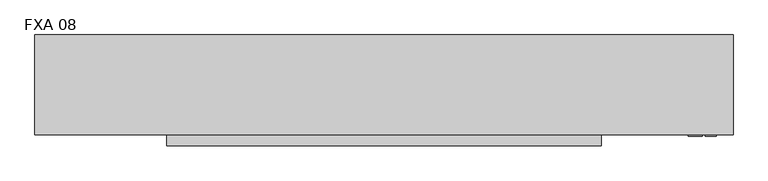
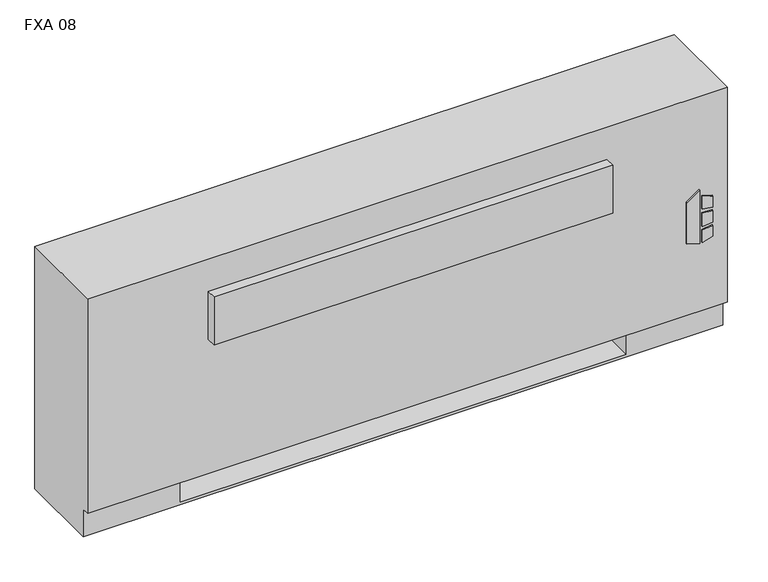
"""IFC4 building model written with IfcOpenShell, lengths in millimetres: proxy geometry, Vertical_Fan_Coil_Unit_-_FXA_-_IEC_-_4-Pipe_FS-FR_RH_2022 : FXA 08."""

from ifc_helpers import new_model, si_unit, point, frame, frame_2d, origin, place, context, project, spatial, polyline, circle_curve, trimmed, segment, composite_curve, outline, extrude, source, transform, mapped, element, save
from ifc_brep_helpers import plane_surface, revolved_surface, advanced_brep


def fxa_08_503152b9(model_context):
    return source(origin(), model_context, "Body", "SolidModel", [
        extrude(outline(polyline([(263.9480703, 849.3868862), (254.0, 881.5602728), (396.1709244, 881.5602728), (373.1489183, 849.3868862), (263.9480703, 849.3868862)])), frame((0.0, 12.7, 0.0), z_axis=(0.0, 1.0, 0.0), x_axis=(0.0, 0.0, 1.0)), (0.0, 0.0, 1.0), 3.175),
        extrude(outline(polyline([(342.9473557, 888.3186058), (339.7449632, 914.4), (368.9738042, 914.4), (377.0382193, 888.3186058), (342.9473557, 888.3186058)])), frame((0.0, 12.7, 0.0), z_axis=(0.0, 1.0, 0.0), x_axis=(0.0, 0.0, 1.0)), (0.0, 0.0, 1.0), 3.175),
        extrude(outline(polyline([(291.0838288, 914.4), (287.4183279, 888.3186058), (254.0, 888.3186058), (262.6342372, 914.4), (291.0838288, 914.4)])), frame((0.0, 12.7, 0.0), z_axis=(0.0, 1.0, 0.0), x_axis=(0.0, 0.0, 1.0)), (0.0, 0.0, 1.0), 3.175),
        extrude(outline(polyline([(330.3989903, 914.4), (332.6808166, 888.3186058), (296.7432681, 888.3186058), (299.4845331, 914.4), (330.3989903, 914.4)])), frame((0.0, 12.7, 0.0), z_axis=(0.0, 1.0, 0.0), x_axis=(0.0, 0.0, 1.0)), (0.0, 0.0, 1.0), 3.175),
        extrude(outline(polyline([(-527.05, 81.534), (-527.05, 223.266), (-406.4, 223.266), (-406.4, 81.534), (-527.05, 81.534)])), frame((0.0, 0.0, 327.025), z_axis=(0.0, 0.0, 1.0), x_axis=(1.0, 0.0, 0.0)), (0.0, 0.0, 1.0), 260.35),
        extrude(outline(composite_curve([segment(trimmed(circle_curve(frame_2d((774.7, 130.175)), 9.525), [point((765.175, 130.175))], [point((784.225, 130.175))], False, "CARTESIAN"), True, "CONTINUOUS"), segment(trimmed(circle_curve(frame_2d((774.7, 130.175)), 9.525), [point((784.225, 130.175))], [point((765.175, 130.175))], False, "CARTESIAN"), True, "CONTINUOUS")], self_intersect=False)), frame((0.0, 0.0, 101.6), z_axis=(0.0, 0.0, 1.0), x_axis=(1.0, 0.0, 0.0)), (0.0, 0.0, 1.0), 25.4),
        extrude(outline(polyline([(876.3, 196.85), (876.3, 63.5), (711.2, 63.5), (711.2, 196.85), (876.3, 196.85)])), frame((0.0, 0.0, 127.0), z_axis=(0.0, 0.0, 1.0), x_axis=(1.0, 0.0, 0.0)), (0.0, 0.0, 1.0), 50.8),
        extrude(outline(polyline([(650.875, -9.525), (-346.075, -9.525), (-346.075, 15.875), (650.875, 15.875), (650.875, -9.525)])), frame((0.0, 0.0, 428.625), z_axis=(0.0, 0.0, 1.0), x_axis=(1.0, 0.0, 0.0)), (0.0, 0.0, 1.0), 127.0),
        extrude(outline(composite_curve([segment(trimmed(circle_curve(frame_2d((109.0168, 457.2)), 7.9375), [point((109.0168, 465.1375))], [point((109.0168, 449.2625))], False, "CARTESIAN"), True, "CONTINUOUS"), segment(trimmed(circle_curve(frame_2d((109.0168, 457.2)), 7.9375), [point((109.0168, 449.2625))], [point((109.0168, 465.1375))], False, "CARTESIAN"), True, "CONTINUOUS")], self_intersect=False)), frame((711.2, 0.0, 0.0), z_axis=(1.0, 0.0, 0.0), x_axis=(0.0, 1.0, 0.0)), (0.0, 0.0, 1.0), 50.8),
        extrude(outline(composite_curve([segment(trimmed(circle_curve(frame_2d((172.085, 460.0194)), 7.9375), [point((172.085, 467.9569))], [point((172.085, 452.0819))], False, "CARTESIAN"), True, "CONTINUOUS"), segment(trimmed(circle_curve(frame_2d((172.085, 460.0194)), 7.9375), [point((172.085, 452.0819))], [point((172.085, 467.9569))], False, "CARTESIAN"), True, "CONTINUOUS")], self_intersect=False)), frame((711.2, 0.0, 0.0), z_axis=(1.0, 0.0, 0.0), x_axis=(0.0, 1.0, 0.0)), (0.0, 0.0, 1.0), 50.8),
        extrude(outline(composite_curve([segment(trimmed(circle_curve(frame_2d((130.175, 554.99)), 7.9502), [point((130.175, 562.9402))], [point((130.175, 547.0398))], False, "CARTESIAN"), True, "CONTINUOUS"), segment(trimmed(circle_curve(frame_2d((130.175, 554.99)), 7.9502), [point((130.175, 547.0398))], [point((130.175, 562.9402))], False, "CARTESIAN"), True, "CONTINUOUS")], self_intersect=False)), frame((711.2, 0.0, 0.0), z_axis=(1.0, 0.0, 0.0), x_axis=(0.0, 1.0, 0.0)), (0.0, 0.0, 1.0), 50.8),
        extrude(outline(composite_curve([segment(trimmed(circle_curve(frame_2d((53.975, 416.56)), 7.9502), [point((53.975, 424.5102))], [point((53.975, 408.6098))], False, "CARTESIAN"), True, "CONTINUOUS"), segment(trimmed(circle_curve(frame_2d((53.975, 416.56)), 7.9502), [point((53.975, 408.6098))], [point((53.975, 424.5102))], False, "CARTESIAN"), True, "CONTINUOUS")], self_intersect=False)), frame((711.2, 0.0, 0.0), z_axis=(1.0, 0.0, 0.0), x_axis=(0.0, 1.0, 0.0)), (0.0, 0.0, 1.0), 50.8),
        advanced_brep(
        [(952.5, 244.475, 641.35), (-647.7, 244.475, 641.35), (-647.7, 15.875, 641.35), (952.5, 15.875, 641.35), (-647.7, 244.475, 0.0), (952.5, 244.475, 0.0), (952.5, 34.925, 0.0), (-647.7, 34.925, 0.0), (711.2, 244.475, 73.025), (939.8, 244.475, 73.025), (939.8, 244.475, 628.65), (711.2, 244.475, 628.65), (711.2, 244.475, 414.8650565), (739.775, 244.475, 414.8650565), (739.775, 244.475, 385.2349435), (711.2, 244.475, 385.2349435), (711.2, 244.475, 287.3375), (739.775, 244.475, 287.3375), (739.775, 244.475, 258.7625), (711.2, 244.475, 258.7625), (711.2, 244.475, 141.2875), (739.775, 244.475, 141.2875), (739.775, 244.475, 112.7125), (711.2, 244.475, 112.7125), (-406.4, 244.475, 628.65), (-635.0, 244.475, 628.65), (-635.0, 244.475, 73.025), (-406.4, 244.475, 73.025), (-406.4, 244.475, 112.7125), (-434.975, 244.475, 112.7125), (-434.975, 244.475, 141.2875), (-406.4, 244.475, 141.2875), (-406.4, 244.475, 258.7625), (-434.975, 244.475, 258.7625), (-434.975, 244.475, 287.3375), (-406.4, 244.475, 287.3375), (-406.4, 244.475, 385.2349435), (-434.975, 244.475, 385.2349435), (-434.975, 244.475, 414.8650565), (-406.4, 244.475, 414.8650565), (729.4626, 244.475, 127.0), (718.3374, 244.475, 127.0), (729.4626, 244.475, 400.05), (718.3374, 244.475, 400.05), (729.4626, 244.475, 273.05), (718.3374, 244.475, 273.05), (-413.5374, 244.475, 127.0), (-424.6626, 244.475, 127.0), (-413.5374, 244.475, 273.05), (-424.6626, 244.475, 273.05), (-413.5374, 244.475, 400.05), (-424.6626, 244.475, 400.05), (-647.7, 34.925, 73.025), (-647.7, 15.875, 73.025), (952.5, 15.875, 73.025), (952.5, 34.925, 73.025), (-406.4, 34.925, 73.025), (-406.4, 219.075, 73.025), (711.2, 219.075, 73.025), (711.2, 34.925, 73.025), (711.2, 34.925, 6.35), (-406.4, 34.925, 6.35), (711.2, 41.275, 628.65), (939.8, 41.275, 628.65), (939.8, 41.275, 73.025), (711.2, 41.275, 73.025), (-406.4, 41.275, 628.65), (-406.4, 41.275, 73.025), (-635.0, 41.275, 73.025), (-635.0, 41.275, 628.65), (711.2, 219.075, 73.025), (711.2, 238.125, 112.7125), (711.2, 238.125, 141.2875), (711.2, 238.125, 258.7625), (711.2, 238.125, 287.3375), (711.2, 238.125, 385.2349435), (711.2, 238.125, 414.8650565), (-406.4, 219.075, 73.025), (-406.4, 238.125, 414.8650565), (-406.4, 238.125, 385.2349435), (-406.4, 238.125, 287.3375), (-406.4, 238.125, 258.7625), (-406.4, 238.125, 141.2875), (-406.4, 238.125, 112.7125), (-406.4, 219.075, 6.35), (711.2, 219.075, 6.35), (739.775, 238.125, 112.7125), (739.775, 238.125, 141.2875), (718.3374, 238.125, 127.0), (729.4626, 238.125, 127.0), (739.775, 238.125, 258.7625), (739.775, 238.125, 287.3375), (718.3374, 238.125, 273.05), (729.4626, 238.125, 273.05), (739.775, 238.125, 385.2349435), (739.775, 238.125, 414.8650565), (718.3374, 238.125, 400.05), (729.4626, 238.125, 400.05), (-434.975, 238.125, 141.2875), (-434.975, 238.125, 112.7125), (-424.6626, 238.125, 127.0), (-413.5374, 238.125, 127.0), (-434.975, 238.125, 287.3375), (-434.975, 238.125, 258.7625), (-424.6626, 238.125, 273.05), (-413.5374, 238.125, 273.05), (-434.975, 238.125, 414.8650565), (-434.975, 238.125, 385.2349435), (-424.6626, 238.125, 400.05), (-413.5374, 238.125, 400.05)],
        [
            (0, 1),
            (1, 2),
            (2, 3),
            (3, 0),
            (4, 5),
            (5, 6),
            (6, 7),
            (7, 4),
            (0, 5),
            (4, 1),
            (8, 9),
            (9, 10),
            (10, 11),
            (11, 12),
            (12, 13),
            (13, 14),
            (14, 15),
            (15, 16),
            (16, 17),
            (17, 18),
            (18, 19),
            (19, 20),
            (20, 21),
            (21, 22),
            (22, 23),
            (23, 8),
            (24, 25),
            (25, 26),
            (26, 27),
            (27, 28),
            (28, 29),
            (29, 30),
            (30, 31),
            (31, 32),
            (32, 33),
            (33, 34),
            (34, 35),
            (35, 36),
            (36, 37),
            (37, 38),
            (38, 39),
            (39, 24),
            (40, 41, circle_curve(frame((723.9, 244.475, 127.0), z_axis=(0.0, -1.0, 0.0), x_axis=(-1.0, 0.0, 0.0)), 5.5626)),
            (41, 40, circle_curve(frame((723.9, 244.475, 127.0), z_axis=(0.0, -1.0, 0.0), x_axis=(-1.0, 0.0, 0.0)), 5.5626)),
            (42, 43, circle_curve(frame((723.9, 244.475, 400.05), z_axis=(0.0, -1.0, 0.0), x_axis=(-1.0, 0.0, 0.0)), 5.5626)),
            (43, 42, circle_curve(frame((723.9, 244.475, 400.05), z_axis=(0.0, -1.0, 0.0), x_axis=(-1.0, 0.0, 0.0)), 5.5626)),
            (44, 45, circle_curve(frame((723.9, 244.475, 273.05), z_axis=(0.0, -1.0, 0.0), x_axis=(-1.0, 0.0, 0.0)), 5.5626)),
            (45, 44, circle_curve(frame((723.9, 244.475, 273.05), z_axis=(0.0, -1.0, 0.0), x_axis=(-1.0, 0.0, 0.0)), 5.5626)),
            (46, 47, circle_curve(frame((-419.1, 244.475, 127.0), z_axis=(0.0, -1.0, 0.0), x_axis=(-1.0, 0.0, 0.0)), 5.5626)),
            (47, 46, circle_curve(frame((-419.1, 244.475, 127.0), z_axis=(0.0, -1.0, 0.0), x_axis=(-1.0, 0.0, 0.0)), 5.5626)),
            (48, 49, circle_curve(frame((-419.1, 244.475, 273.05), z_axis=(0.0, -1.0, 0.0), x_axis=(-1.0, 0.0, 0.0)), 5.5626)),
            (49, 48, circle_curve(frame((-419.1, 244.475, 273.05), z_axis=(0.0, -1.0, 0.0), x_axis=(-1.0, 0.0, 0.0)), 5.5626)),
            (50, 51, circle_curve(frame((-419.1, 244.475, 400.05), z_axis=(0.0, -1.0, 0.0), x_axis=(-1.0, 0.0, 0.0)), 5.5626)),
            (51, 50, circle_curve(frame((-419.1, 244.475, 400.05), z_axis=(0.0, -1.0, 0.0), x_axis=(-1.0, 0.0, 0.0)), 5.5626)),
            (7, 52),
            (52, 53),
            (53, 2),
            (53, 54),
            (54, 3),
            (54, 55),
            (55, 6),
            (52, 56),
            (56, 57),
            (57, 58),
            (58, 59),
            (59, 55),
            (59, 60),
            (60, 61),
            (61, 56),
            (62, 63),
            (63, 64),
            (64, 65),
            (65, 62),
            (66, 67),
            (67, 68),
            (68, 69),
            (69, 66),
            (65, 70),
            (70, 8),
            (23, 71),
            (71, 72),
            (72, 20),
            (19, 73),
            (73, 74),
            (74, 16),
            (15, 75),
            (75, 76),
            (76, 12),
            (11, 62),
            (64, 9),
            (63, 10),
            (69, 25),
            (24, 66),
            (68, 26),
            (67, 77),
            (77, 27),
            (39, 78),
            (78, 79),
            (79, 36),
            (35, 80),
            (80, 81),
            (81, 32),
            (31, 82),
            (82, 83),
            (83, 28),
            (57, 84),
            (84, 85),
            (85, 58),
            (85, 60),
            (84, 61),
            (71, 86),
            (86, 87),
            (87, 72),
            (88, 89, circle_curve(frame((723.9, 238.125, 127.0), z_axis=(0.0, 1.0, 0.0), x_axis=(-1.0, 0.0, 0.0)), 5.5626)),
            (89, 88, circle_curve(frame((723.9, 238.125, 127.0), z_axis=(0.0, 1.0, 0.0), x_axis=(-1.0, 0.0, 0.0)), 5.5626)),
            (73, 90),
            (90, 91),
            (91, 74),
            (92, 93, circle_curve(frame((723.9, 238.125, 273.05), z_axis=(0.0, 1.0, 0.0), x_axis=(-1.0, 0.0, 0.0)), 5.5626)),
            (93, 92, circle_curve(frame((723.9, 238.125, 273.05), z_axis=(0.0, 1.0, 0.0), x_axis=(-1.0, 0.0, 0.0)), 5.5626)),
            (75, 94),
            (94, 95),
            (95, 76),
            (96, 97, circle_curve(frame((723.9, 238.125, 400.05), z_axis=(0.0, 1.0, 0.0), x_axis=(-1.0, 0.0, 0.0)), 5.5626)),
            (97, 96, circle_curve(frame((723.9, 238.125, 400.05), z_axis=(0.0, 1.0, 0.0), x_axis=(-1.0, 0.0, 0.0)), 5.5626)),
            (98, 99),
            (99, 83),
            (82, 98),
            (100, 101, circle_curve(frame((-419.1, 238.125, 127.0), z_axis=(0.0, 1.0, 0.0), x_axis=(-1.0, 0.0, 0.0)), 5.5626)),
            (101, 100, circle_curve(frame((-419.1, 238.125, 127.0), z_axis=(0.0, 1.0, 0.0), x_axis=(-1.0, 0.0, 0.0)), 5.5626)),
            (102, 103),
            (103, 81),
            (80, 102),
            (104, 105, circle_curve(frame((-419.1, 238.125, 273.05), z_axis=(0.0, 1.0, 0.0), x_axis=(-1.0, 0.0, 0.0)), 5.5626)),
            (105, 104, circle_curve(frame((-419.1, 238.125, 273.05), z_axis=(0.0, 1.0, 0.0), x_axis=(-1.0, 0.0, 0.0)), 5.5626)),
            (106, 107),
            (107, 79),
            (78, 106),
            (108, 109, circle_curve(frame((-419.1, 238.125, 400.05), z_axis=(0.0, 1.0, 0.0), x_axis=(-1.0, 0.0, 0.0)), 5.5626)),
            (109, 108, circle_curve(frame((-419.1, 238.125, 400.05), z_axis=(0.0, 1.0, 0.0), x_axis=(-1.0, 0.0, 0.0)), 5.5626)),
            (87, 21),
            (86, 22),
            (91, 17),
            (90, 18),
            (95, 13),
            (94, 14),
            (30, 98),
            (99, 29),
            (34, 102),
            (103, 33),
            (38, 106),
            (107, 37),
            (88, 41),
            (40, 89),
            (96, 43),
            (42, 97),
            (92, 45),
            (44, 93),
            (100, 47),
            (46, 101),
            (104, 49),
            (48, 105),
            (108, 51),
            (50, 109),
        ],
        [
            plane_surface(frame((-647.7, 244.475, 641.35), z_axis=(0.0, 0.0, 1.0), x_axis=(-1.0, 0.0, 0.0))),
            plane_surface(frame((-647.7, 244.475, 0.0), z_axis=(0.0, 0.0, -1.0), x_axis=(1.0, 0.0, 0.0))),
            plane_surface(frame((952.5, 244.475, 641.35), z_axis=(0.0, 1.0, 0.0), x_axis=(0.0, 0.0, -1.0))),
            plane_surface(frame((-647.7, 244.475, 641.35), z_axis=(-1.0, 0.0, 0.0), x_axis=(0.0, 0.0, -1.0))),
            plane_surface(frame((-647.7, 15.875, 641.35), z_axis=(0.0, -1.0, 0.0), x_axis=(0.0, 0.0, -1.0))),
            plane_surface(frame((952.5, 15.875, 641.35), z_axis=(1.0, 0.0, 0.0), x_axis=(0.0, 0.0, -1.0))),
            plane_surface(frame((-647.7, 15.875, 73.025), z_axis=(0.0, 0.0, -1.0), x_axis=(1.0, 0.0, 0.0))),
            plane_surface(frame((-647.7, 34.925, 73.025), z_axis=(0.0, -1.0, 0.0), x_axis=(1.0, 0.0, 0.0))),
            plane_surface(frame((711.2, 41.275, 628.65), z_axis=(0.0, 1.0, 0.0), x_axis=(0.0, 0.0, -1.0))),
            plane_surface(frame((711.2, 41.275, 628.65), z_axis=(1.0, 0.0, 0.0), x_axis=(0.0, 1.0, 0.0))),
            plane_surface(frame((711.2, 41.275, 73.025), z_axis=(0.0, 0.0, 1.0), x_axis=(0.0, 1.0, 0.0))),
            plane_surface(frame((939.8, 41.275, 73.025), z_axis=(-1.0, 0.0, 0.0), x_axis=(0.0, 1.0, 0.0))),
            plane_surface(frame((939.8, 41.275, 628.65), z_axis=(0.0, 0.0, -1.0), x_axis=(0.0, 1.0, 0.0))),
            plane_surface(frame((-406.4, 41.275, 628.65), z_axis=(0.0, 0.0, -1.0), x_axis=(0.0, 1.0, 0.0))),
            plane_surface(frame((-635.0, 41.275, 628.65), z_axis=(1.0, 0.0, 0.0), x_axis=(0.0, 1.0, 0.0))),
            plane_surface(frame((-635.0, 41.275, 73.025), z_axis=(0.0, 0.0, 1.0), x_axis=(0.0, 1.0, 0.0))),
            plane_surface(frame((-406.4, 41.275, 73.025), z_axis=(-1.0, 0.0, 0.0), x_axis=(0.0, 1.0, 0.0))),
            plane_surface(frame((711.2, 219.075, 73.025), z_axis=(0.0, -1.0, 0.0), x_axis=(0.0, 0.0, -1.0))),
            plane_surface(frame((711.2, 219.075, 73.025), z_axis=(-1.0, 0.0, 0.0), x_axis=(0.0, -1.0, 0.0))),
            plane_surface(frame((711.2, 219.075, 6.35), z_axis=(0.0, 0.0, 1.0), x_axis=(0.0, -1.0, 0.0))),
            plane_surface(frame((-406.4, 219.075, 6.35), z_axis=(1.0, 0.0, 0.0), x_axis=(0.0, -1.0, 0.0))),
            plane_surface(frame((739.775, 238.125, 141.2875), z_axis=(0.0, -1.0, 0.0), x_axis=(-1.0, 0.0, 0.0))),
            plane_surface(frame((711.2, 244.475, 141.2875), z_axis=(0.0, 0.0, 1.0), x_axis=(0.0, -1.0, 0.0))),
            plane_surface(frame((739.775, 244.475, 141.2875), z_axis=(1.0, 0.0, 0.0), x_axis=(0.0, -1.0, 0.0))),
            plane_surface(frame((739.775, 244.475, 112.7125), z_axis=(0.0, 0.0, -1.0), x_axis=(0.0, -1.0, 0.0))),
            plane_surface(frame((711.2, 244.475, 287.3375), z_axis=(0.0, 0.0, 1.0), x_axis=(0.0, -1.0, 0.0))),
            plane_surface(frame((739.775, 244.475, 287.3375), z_axis=(1.0, 0.0, 0.0), x_axis=(0.0, -1.0, 0.0))),
            plane_surface(frame((739.775, 244.475, 258.7625), z_axis=(0.0, 0.0, -1.0), x_axis=(0.0, -1.0, 0.0))),
            plane_surface(frame((711.2, 244.475, 414.8650565), z_axis=(0.0, 0.0, 1.0), x_axis=(0.0, -1.0, 0.0))),
            plane_surface(frame((739.775, 244.475, 414.8650565), z_axis=(1.0, 0.0, 0.0), x_axis=(0.0, -1.0, 0.0))),
            plane_surface(frame((739.775, 244.475, 385.2349435), z_axis=(0.0, 0.0, -1.0), x_axis=(0.0, -1.0, 0.0))),
            plane_surface(frame((-434.975, 244.475, 141.2875), z_axis=(0.0, 0.0, 1.0), x_axis=(0.0, -1.0, 0.0))),
            plane_surface(frame((-406.4, 244.475, 112.7125), z_axis=(0.0, 0.0, -1.0), x_axis=(0.0, -1.0, 0.0))),
            plane_surface(frame((-434.975, 244.475, 112.7125), z_axis=(-1.0, 0.0, 0.0), x_axis=(0.0, -1.0, 0.0))),
            plane_surface(frame((-434.975, 244.475, 287.3375), z_axis=(0.0, 0.0, 1.0), x_axis=(0.0, -1.0, 0.0))),
            plane_surface(frame((-406.4, 244.475, 258.7625), z_axis=(0.0, 0.0, -1.0), x_axis=(0.0, -1.0, 0.0))),
            plane_surface(frame((-434.975, 244.475, 258.7625), z_axis=(-1.0, 0.0, 0.0), x_axis=(0.0, -1.0, 0.0))),
            plane_surface(frame((-434.975, 244.475, 414.8650565), z_axis=(0.0, 0.0, 1.0), x_axis=(0.0, -1.0, 0.0))),
            plane_surface(frame((-406.4, 244.475, 385.2349435), z_axis=(0.0, 0.0, -1.0), x_axis=(0.0, -1.0, 0.0))),
            plane_surface(frame((-434.975, 244.475, 385.2349435), z_axis=(-1.0, 0.0, 0.0), x_axis=(0.0, -1.0, 0.0))),
            revolved_surface(polyline([(718.3374, 238.125, 127.0), (718.3374, 244.475, 127.0)]), (723.9, 244.475, 127.0), (0.0, -1.0, 0.0)),
            revolved_surface(polyline([(718.3374, 238.125, 400.05), (718.3374, 244.475, 400.05)]), (723.9, 244.475, 400.05), (0.0, -1.0, 0.0)),
            revolved_surface(polyline([(718.3374, 238.125, 273.05), (718.3374, 244.475, 273.05)]), (723.9, 244.475, 273.05), (0.0, -1.0, 0.0)),
            revolved_surface(polyline([(-424.6626, 238.125, 127.0), (-424.6626, 244.475, 127.0)]), (-419.1, 244.475, 127.0), (0.0, -1.0, 0.0)),
            revolved_surface(polyline([(-424.6626, 238.125, 273.05), (-424.6626, 244.475, 273.05)]), (-419.1, 244.475, 273.05), (0.0, -1.0, 0.0)),
            revolved_surface(polyline([(-424.6626, 238.125, 400.05), (-424.6626, 244.475, 400.05)]), (-419.1, 244.475, 400.05), (0.0, -1.0, 0.0)),
        ],
        [
            (0, [[1, 2, 3, 4]]),
            (1, [[5, 6, 7, 8]]),
            (2, [[-1, 9, -5, 10], [11, 12, 13, 14, 15, 16, 17, 18, 19, 20, 21, 22, 23, 24, 25, 26], [27, 28, 29, 30, 31, 32, 33, 34, 35, 36, 37, 38, 39, 40, 41, 42], [43, 44], [45, 46], [47, 48], [49, 50], [51, 52], [53, 54]]),
            (3, [[-2, -10, -8, 55, 56, 57]]),
            (4, [[-3, -57, 58, 59]]),
            (5, [[-4, -59, 60, 61, -6, -9]]),
            (6, [[-56, 62, 63, 64, 65, 66, -60, -58]]),
            (7, [[-7, -61, -66, 67, 68, 69, -62, -55]]),
            (8, [[70, 71, 72, 73]]),
            (8, [[74, 75, 76, 77]]),
            (9, [[-73, 78, 79, -26, 80, 81, 82, -22, 83, 84, 85, -18, 86, 87, 88, -14, 89]]),
            (10, [[-72, 90, -11, -79, -78]]),
            (11, [[-71, 91, -12, -90]]),
            (12, [[-70, -89, -13, -91]]),
            (13, [[-77, 92, -27, 93]]),
            (14, [[-76, 94, -28, -92]]),
            (15, [[-75, 95, 96, -29, -94]]),
            (16, [[-74, -93, -42, 97, 98, 99, -38, 100, 101, 102, -34, 103, 104, 105, -30, -96, -95]]),
            (17, [[-64, 106, 107, 108]]),
            (18, [[-108, 109, -67, -65]]),
            (19, [[-107, 110, -68, -109]]),
            (20, [[-106, -63, -69, -110]]),
            (21, [[111, 112, 113, -81], [114, 115]]),
            (21, [[116, 117, 118, -84], [119, 120]]),
            (21, [[121, 122, 123, -87], [124, 125]]),
            (21, [[126, 127, -104, 128], [129, 130]]),
            (21, [[131, 132, -101, 133], [134, 135]]),
            (21, [[136, 137, -98, 138], [139, 140]]),
            (22, [[-113, 141, -23, -82]]),
            (23, [[-112, 142, -24, -141]]),
            (24, [[-111, -80, -25, -142]]),
            (25, [[-118, 143, -19, -85]]),
            (26, [[-117, 144, -20, -143]]),
            (27, [[-116, -83, -21, -144]]),
            (28, [[-123, 145, -15, -88]]),
            (29, [[-122, 146, -16, -145]]),
            (30, [[-121, -86, -17, -146]]),
            (31, [[-128, -103, -33, 147]]),
            (32, [[-127, 148, -31, -105]]),
            (33, [[-126, -147, -32, -148]]),
            (34, [[-133, -100, -37, 149]]),
            (35, [[-132, 150, -35, -102]]),
            (36, [[-131, -149, -36, -150]]),
            (37, [[-138, -97, -41, 151]]),
            (38, [[-137, 152, -39, -99]]),
            (39, [[-136, -151, -40, -152]]),
            (40, [[153, -43, 154, -114]]),
            (40, [[-153, -115, -154, -44]]),
            (41, [[155, -45, 156, -124]]),
            (41, [[-155, -125, -156, -46]]),
            (42, [[157, -47, 158, -119]]),
            (42, [[-157, -120, -158, -48]]),
            (43, [[159, -49, 160, -129]]),
            (43, [[-159, -130, -160, -50]]),
            (44, [[161, -51, 162, -134]]),
            (44, [[-161, -135, -162, -52]]),
            (45, [[163, -53, 164, -139]]),
            (45, [[-163, -140, -164, -54]]),
        ],
    ),
    ])


if __name__ == "__main__":
    model = new_model("IFC4")
    model_context = context("Model", 3, world=origin())
    ifc_project = project(units=[si_unit("LENGTHUNIT", "METRE", prefix="MILLI")], contexts=[model_context])
    site = spatial("IfcSite", under=ifc_project)
    building = spatial("IfcBuilding", under=site)
    placement = place(None, origin())
    fxa_08_shape = fxa_08_503152b9(model_context)
    element("IfcBuildingElementProxy", 1, Name="Vertical_Fan_Coil_Unit_-_FXA_-_IEC_-_4-Pipe_FS-FR_RH_2022 : FXA 08", ObjectType="Vertical_Fan_Coil_Unit_-_FXA_-_IEC_-_4-Pipe_FS-FR_RH_2022 : FXA 08", at=placement, inside=building, context=model_context, shape_type="MappedRepresentation", body=[
        mapped(fxa_08_shape, transform((0.0, 0.0, 0.0), x_axis=(1.0, 0.0, 0.0), y_axis=(0.0, 1.0, 0.0), z_axis=(0.0, 0.0, 1.0))),
    ])
    save(model, "model.ifc")
